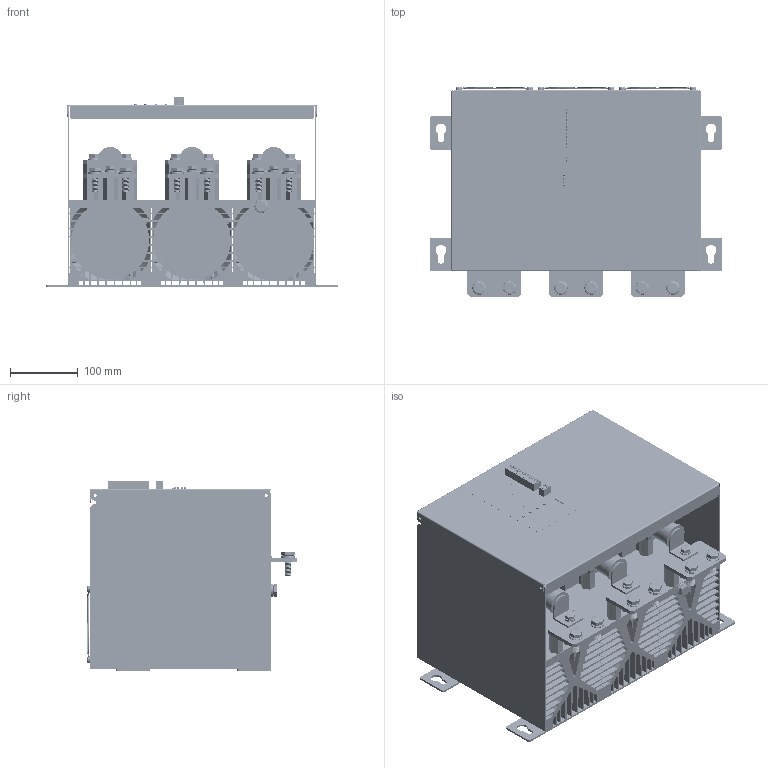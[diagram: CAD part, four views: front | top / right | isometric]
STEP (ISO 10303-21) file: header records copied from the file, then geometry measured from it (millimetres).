
FILE_DESCRIPTION(('STEP AP203'), '1');
FILE_NAME('ÒÐÌ 3Ì(N)-300(380) RS485', '2025-06-11T05:57:10', (''), ('ÎÎÎ "Ìåàíäð"'), 'C3D Converter', 'C3D Toolkit', '');
FILE_SCHEMA(('CONFIG_CONTROL_DESIGN'));
Length unit declared in the file: millimetre
Products named in the file (5): ТРМ-3М(МN) 300(380) RS485
Assembly tree (21 placements, depth 2):
  ТРМ-3М(МN) 300(380) RS485
    (unnamed)
    (unnamed)
    (unnamed)  x6
    (unnamed)  x13
Bounding box: 433 x 312.5 x 282.4 mm (x, y, z)
Volume: 8599739.8 mm3; surface area: 2676427.8 mm2
Topology: 21 solids, 22 shells, 6913 faces, 20469 edges, 13405 vertices
Faces by surface type: plane 3702, extrusion 1824, cylinder 1056, torus 152, cone 101, bspline 74, sphere 4
Full cylindrical faces by diameter (mm): 1.8 x6, 3.3 x4, 4 x16, 4.2 x4, 4.572 x24, 6.1 x4, 8 x6, 8.4 x6, 9 x12, 10 x14, 10.8 x1, 11.6 x6, 15.6 x13, 16 x12, 20 x13, 33.5 x3, 37 x6, 115 x2, 115.062 x2, 118.662 x2, 119.5 x1
Entity records: 257318 total; most frequent: CARTESIAN_POINT 88175, ORIENTED_EDGE 36020, DIRECTION 25988, EDGE_CURVE 18010, VECTOR 13114, VERTEX_POINT 11913, LINE 11290, EDGE_LOOP 6681
